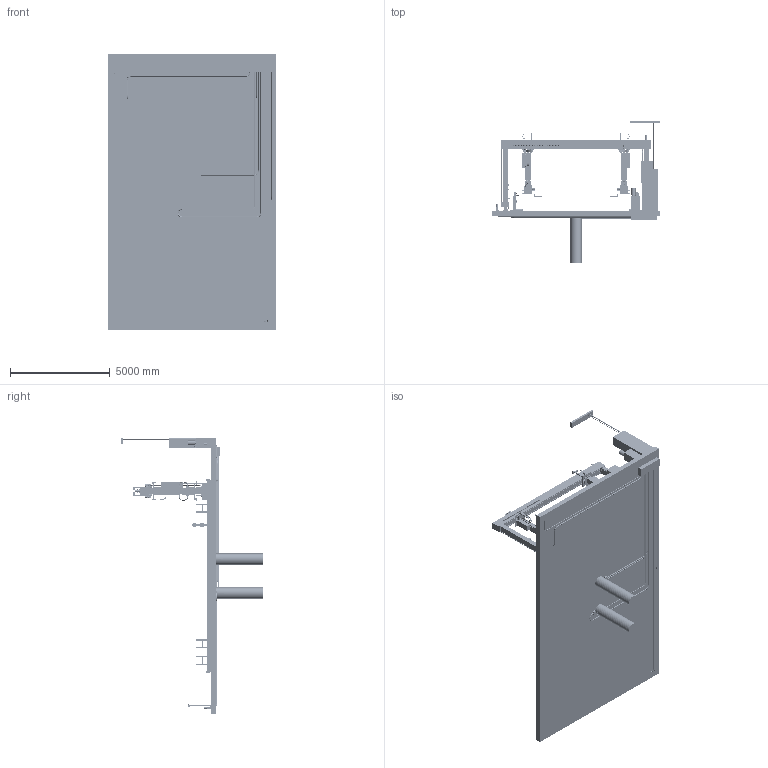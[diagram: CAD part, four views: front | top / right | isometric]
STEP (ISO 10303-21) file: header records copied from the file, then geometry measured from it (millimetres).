
FILE_DESCRIPTION(('Open CASCADE Model'),'2;1');
FILE_NAME('Open CASCADE Shape Model','2026-11-17T20:38:26',('Author'),( 'Open CASCADE'),'Open CASCADE STEP processor 7.9','Open CASCADE 7.9' ,'Unknown');
FILE_SCHEMA(('AUTOMOTIVE_DESIGN { 1 0 10303 214 1 1 1 1 }'));
Length unit declared in the file: millimetre
Products named in the file (309): tire_bay; Bay; TB-RLB#1; TB-RLP#1; TB-ANC16#1; RAIL35-9700#1; ISO4762-M8x25-12.9#1; TB-GR-PR1000#1; ISO4762-M8x25-10.9#25; TB-GR-PR600#1; TB-RST#1; TB-RBF#1; TB-CPL#1; TB-BCB#1; TB-HPT#1; TB-HPM#1; TB-HPV#1; TB-PTC#1; TB-HPF#1; TB-HPR#1; TB-CRF#1; TB-CRR#1; TB-CFC#1; TB-CKW#1; TB-CKE#1; TB-CS1#1; TB-CS2#1; TB-CES#1; TB-PTL#1; TB-FCT#1; TB-ANC12#57; TB-FCE#1; TB-SCP#1; TB-SCN#1; TB-ESP#1; TB-ESB#1; TB-RCC#1; TB-BTR#1; TB-CFD#1; TB-CNW#1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
Assembly tree (2459 placements, depth 12):
  tire_bay
    Bay
      TB-RLB#1  x2
      TB-RLP#1  x22
      TB-ANC16#1  x44
      RAIL35-9700#1  x2
      ISO4762-M8x25-12.9#1  x242
      TB-GR-PR1000#1  x18
      ISO4762-M8x25-10.9#25  x152
      TB-GR-PR600#1  x2
      TB-RST#1  x8
      TB-RBF#1  x8
      TB-CPL#1
      TB-BCB#1
      TB-HPT#1
      TB-HPM#1
      TB-HPV#1
      TB-PTC#1
      TB-HPF#1
      TB-HPR#1
      TB-CRF#1
      TB-CRR#1
      TB-CFC#1
      TB-CKW#1
      TB-CKE#1
      TB-CS1#1
      TB-CS2#1
      TB-CES#1
      TB-PTL#1
      TB-FCT#1
      TB-ANC12#57  x31
      TB-FCE#1
      TB-SCP#1  x2
      TB-SCN#1  x2
      TB-ESP#1
      TB-ESB#1
      TB-RCC#1  x2
      TB-BTR#1
      TB-CFD#1
      TB-CNW#1
      TB-SLB#1
      PostF
        TB-CAS#1
        TB-BRL#1
        TB-BPB#1
        TB-CSV#1
        TB-DWS#1
        TB-RWP#1
        TB-PWL#1  x2
        TB-PAN#1
        TB-ANC12#57  x8
        TB-SCR#1
        TB-RLG#1
        RamF
          TB-RAM#1
          TB-RFL#1
          TB-SAD#1
          ISO4762-M16x40-10.9#1  x8
          TB-LBKN#1
          TB-LBR#1  x2
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Bounding box: 8421.6 x 7125 x 13780.8 mm (x, y, z)
Volume: 30831871821.8 mm3; surface area: 478662209.9 mm2
Topology: 2627 solids, 2634 shells, 47669 faces, 112878 edges, 74092 vertices
Faces by surface type: plane 36742, cylinder 7807, cone 1626, torus 1328, sphere 152, extrusion 12, bspline 2
Full cylindrical faces by diameter (mm): 3 x16, 3.36 x32, 4 x80, 4.2 x32, 4.5 x32, 5 x70, 5.04 x48, 5.5 x64, 6 x248, 6.1 x110, 6.6 x48, 6.72 x48, 6.8 x64, 7 x56, 7.875 x24, 8 x802, 8.5 x490, 9 x194, 9.5 x16, 9.6 x6, 10 x330, 11 x60, 11.2 x2, 11.5 x48, 11.55 x110, 12 x145, 13 x750, 13.5 x135, 14.4 x6, 14.88 x48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
Entity records: 482809 total; most frequent: CARTESIAN_POINT 93487, DIRECTION 73069, VECTOR 44330, LINE 44324, ORIENTED_EDGE 35766, PCURVE 35764, DEFINITIONAL_REPRESENTATION 35764, EDGE_CURVE 17882
